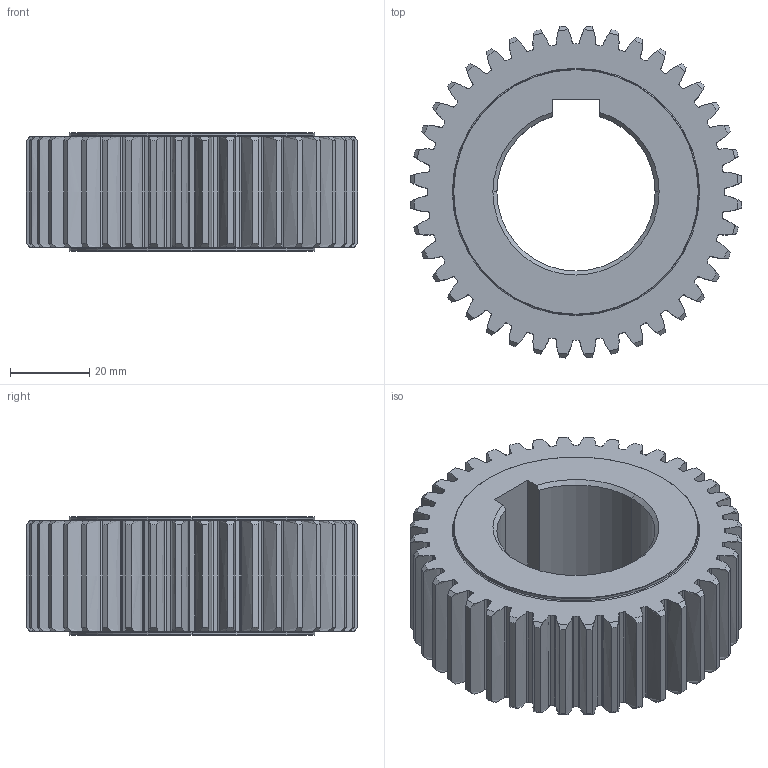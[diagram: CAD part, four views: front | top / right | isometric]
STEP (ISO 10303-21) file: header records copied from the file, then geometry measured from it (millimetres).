
FILE_DESCRIPTION (( 'STEP AP214' ), '1' );
FILE_NAME ('1SG__S020040S.STEP', '2021-08-04T06:04:43', ( '' ), ( '' ), 'SwSTEP 2.0', 'SolidWorks 2021', '' );
FILE_SCHEMA (( 'AUTOMOTIVE_DESIGN' ));
Length unit declared in the file: millimetre
Products named in the file (1): 1SG__S020040S
Bounding box: 83.85 x 83.85 x 30 mm (x, y, z)
Volume: 106468.5 mm3; surface area: 25517.4 mm2
Topology: 1 solids, 1 shells, 368 faces, 1072 edges, 708 vertices
Faces by surface type: cylinder 147, bspline 120, cone 90, plane 7, torus 4
Entity records: 22222 total; most frequent: CARTESIAN_POINT 13001, ORIENTED_EDGE 2144, DIRECTION 1710, EDGE_CURVE 1072, AXIS2_PLACEMENT_3D 713, VERTEX_POINT 708, CIRCLE 464, EDGE_LOOP 372
